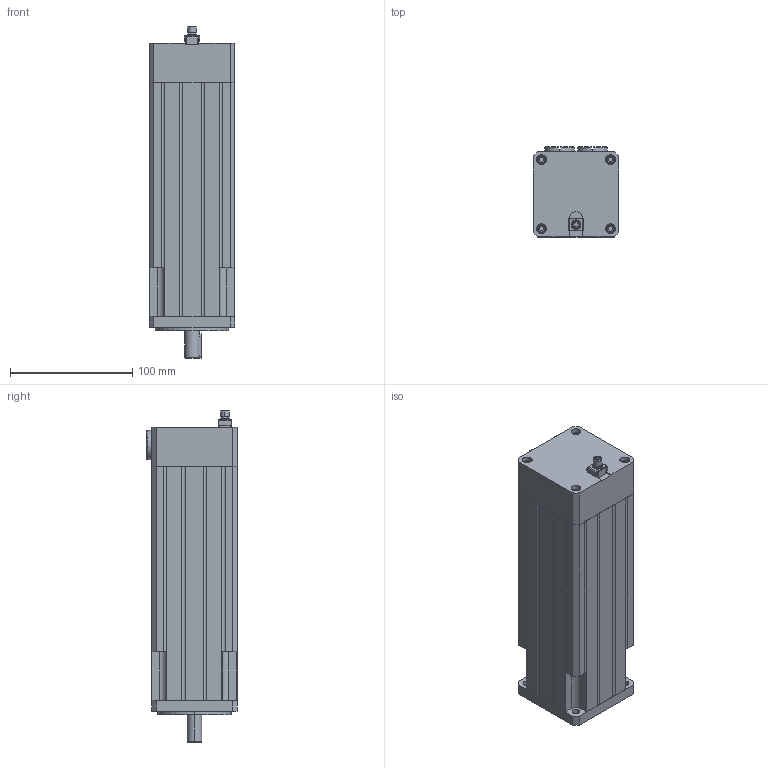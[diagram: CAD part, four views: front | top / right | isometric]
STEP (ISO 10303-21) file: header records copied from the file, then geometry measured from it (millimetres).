
FILE_DESCRIPTION (( 'STEP AP203' ), '1' );
FILE_NAME ('BTS070-04R2A2-EXD ZA.V1.STEP', '2023-03-08T02:07:29', ( 'Admin' ), ( '' ), 'SwSTEP 2.0', 'SolidWorks 2021', '' );
FILE_SCHEMA (( 'CONFIG_CONTROL_DESIGN' ));
Length unit declared in the file: millimetre
Products named in the file (1): BTS070-04R2A2-EXD  ZA.V1
Bounding box: 70 x 74 x 272 mm (x, y, z)
Volume: 1103127.8 mm3; surface area: 108521.6 mm2
Topology: 21 solids, 21 shells, 459 faces, 1098 edges, 704 vertices
Faces by surface type: plane 228, cylinder 176, torus 30, cone 25
Entity records: 13384 total; most frequent: DIRECTION 2409, CARTESIAN_POINT 2332, ORIENTED_EDGE 2152, EDGE_CURVE 1076, AXIS2_PLACEMENT_3D 885, VERTEX_POINT 704, VECTOR 639, LINE 639
